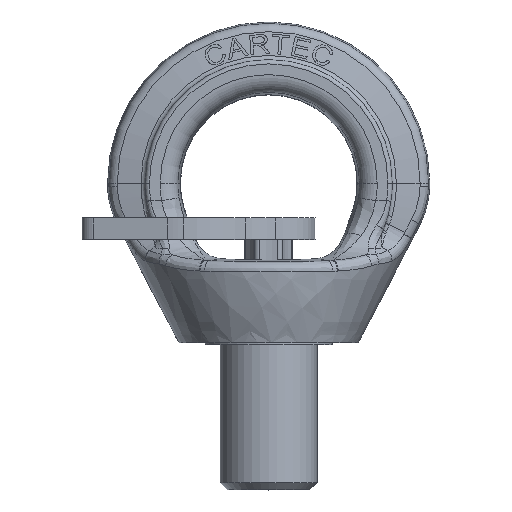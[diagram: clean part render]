
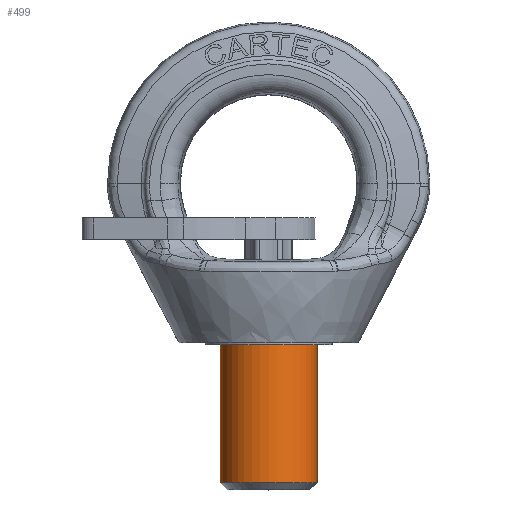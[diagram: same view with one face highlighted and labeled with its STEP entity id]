
A CAD part, top view. The second image highlights one B-rep face of the part: STEP entity #499.
In plain terms, the highlighted cylindrical face has radius 13.5 mm (diameter 27 mm), a partial arc.
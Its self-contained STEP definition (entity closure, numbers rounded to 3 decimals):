
#499=ADVANCED_FACE('',(#1432),#1433,.T.);
#1432=FACE_OUTER_BOUND('',#2834,.T.);
#1433=CYLINDRICAL_SURFACE('',#2835,13.5);
#2834=EDGE_LOOP('',(#14870,#14871,#14872,#14873));
#2835=AXIS2_PLACEMENT_3D('',#14874,#14875,#14876);
#14870=ORIENTED_EDGE('',*,*,#18722,.F.);
#14871=ORIENTED_EDGE('',*,*,#18723,.T.);
#14872=ORIENTED_EDGE('',*,*,#18724,.F.);
#14873=ORIENTED_EDGE('',*,*,#18725,.T.);
#14874=CARTESIAN_POINT('',(0.,-81.0,0.0));
#14875=DIRECTION('',(0.,-1.0,0.0));
#14876=DIRECTION('',(-1.0,0.,0.0));
#18722=EDGE_CURVE('',#20365,#20366,#20367,.T.);
#18723=EDGE_CURVE('',#20365,#20368,#20369,.T.);
#18724=EDGE_CURVE('',#20370,#20368,#20371,.T.);
#18725=EDGE_CURVE('',#20370,#20366,#20372,.T.);
#20365=VERTEX_POINT('',#22764);
#20366=VERTEX_POINT('',#22765);
#20367=LINE('',#22766,#22767);
#20368=VERTEX_POINT('',#22768);
#20369=CIRCLE('',#22769,13.5);
#20370=VERTEX_POINT('',#22770);
#20371=LINE('',#22771,#22772);
#20372=CIRCLE('',#22773,13.5);
#22764=CARTESIAN_POINT('',(-13.5,-83.5,0.0));
#22765=CARTESIAN_POINT('',(-13.5,-45.0,0.));
#22766=CARTESIAN_POINT('',(-13.5,-81.0,0.));
#22767=VECTOR('',#33104,1.0);
#22768=CARTESIAN_POINT('',(13.5,-83.5,0.));
#22769=AXIS2_PLACEMENT_3D('',#33105,#33106,#33107);
#22770=CARTESIAN_POINT('',(13.5,-45.0,0.0));
#22771=CARTESIAN_POINT('',(13.5,-81.0,0.));
#22772=VECTOR('',#33108,1.0);
#22773=AXIS2_PLACEMENT_3D('',#33109,#33110,#33111);
#33104=DIRECTION('',(0.,1.0,-0.0));
#33105=CARTESIAN_POINT('',(0.,-83.5,0.0));
#33106=DIRECTION('',(0.,1.0,0.0));
#33107=DIRECTION('',(-1.0,0.,0.0));
#33108=DIRECTION('',(0.,-1.0,0.0));
#33109=CARTESIAN_POINT('',(0.,-45.0,0.0));
#33110=DIRECTION('',(0.,-1.0,0.0));
#33111=DIRECTION('',(1.0,0.,0.0));
